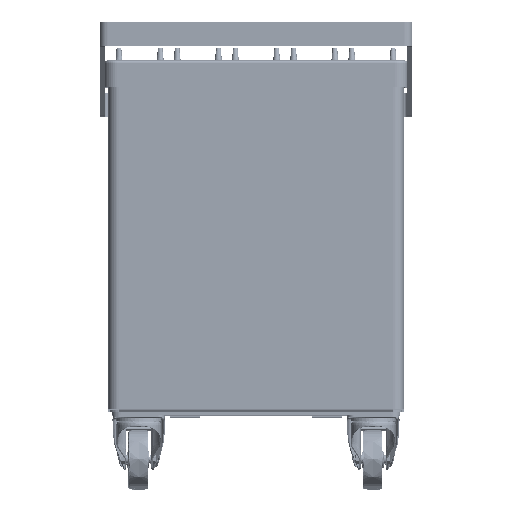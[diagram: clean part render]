
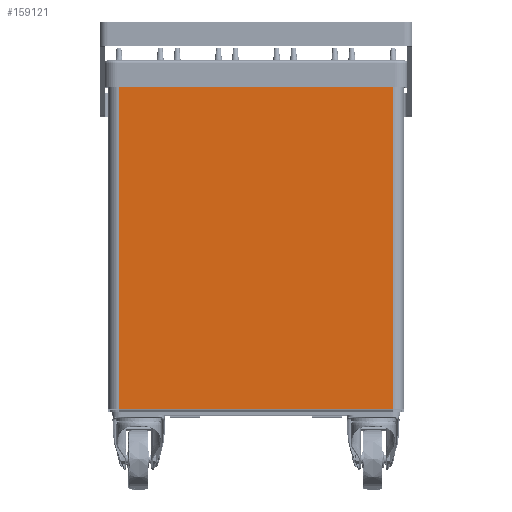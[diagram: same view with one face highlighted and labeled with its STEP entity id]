
A CAD part, top view. The second image highlights one B-rep face of the part: STEP entity #159121.
In plain terms, the highlighted planar face has unit normal (0, 0, 1).
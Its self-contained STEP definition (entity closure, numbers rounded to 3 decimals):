
#4449 = EDGE_CURVE ( 'NONE', #90155, #77275, #71832, .T. ) ;
#5482 = ORIENTED_EDGE ( 'NONE', *, *, #169752, .T. ) ;
#6423 = CARTESIAN_POINT ( 'NONE',  ( 288.5, 858., 534.85 ) ) ;
#10715 = DIRECTION ( 'NONE',  ( 1., 0., 0. ) ) ;
#13263 = CARTESIAN_POINT ( 'NONE',  ( -288.5, 168.5, 534.85 ) ) ;
#16922 = PLANE ( 'NONE',  #158850 ) ;
#18343 = EDGE_CURVE ( 'NONE', #77275, #42367, #160286, .T. ) ;
#18539 = VERTEX_POINT ( 'NONE', #133530 ) ;
#20076 = CARTESIAN_POINT ( 'NONE',  ( 0., 510.5, 534.85 ) ) ;
#20695 = DIRECTION ( 'NONE',  ( 0., 0., -1. ) ) ;
#24256 = DIRECTION ( 'NONE',  ( 0., -1., 0. ) ) ;
#29376 = EDGE_LOOP ( 'NONE', ( #5482, #167507, #50466, #138566 ) ) ;
#42367 = VERTEX_POINT ( 'NONE', #114868 ) ;
#50466 = ORIENTED_EDGE ( 'NONE', *, *, #18343, .T. ) ;
#55718 = LINE ( 'NONE', #65795, #186401 ) ;
#56407 = CARTESIAN_POINT ( 'NONE',  ( -288.5, 850.5, 534.85 ) ) ;
#58695 = VECTOR ( 'NONE', #166599, 1000. ) ;
#65795 = CARTESIAN_POINT ( 'NONE',  ( 288.5, 850.5, 534.85 ) ) ;
#71832 = LINE ( 'NONE', #127386, #94712 ) ;
#77275 = VERTEX_POINT ( 'NONE', #13263 ) ;
#78285 = DIRECTION ( 'NONE',  ( -1., 0., 0. ) ) ;
#90155 = VERTEX_POINT ( 'NONE', #56407 ) ;
#94319 = EDGE_CURVE ( 'NONE', #42367, #18539, #184999, .T. ) ;
#94712 = VECTOR ( 'NONE', #24256, 1000. ) ;
#114868 = CARTESIAN_POINT ( 'NONE',  ( 288.5, 168.5, 534.85 ) ) ;
#126697 = DIRECTION ( 'NONE',  ( -1., 0., 0. ) ) ;
#127386 = CARTESIAN_POINT ( 'NONE',  ( -288.5, 858., 534.85 ) ) ;
#133530 = CARTESIAN_POINT ( 'NONE',  ( 288.5, 850.5, 534.85 ) ) ;
#138566 = ORIENTED_EDGE ( 'NONE', *, *, #94319, .T. ) ;
#144282 = VECTOR ( 'NONE', #10715, 1000. ) ;
#145141 = CARTESIAN_POINT ( 'NONE',  ( -288.5, 168.5, 534.85 ) ) ;
#158850 = AXIS2_PLACEMENT_3D ( 'NONE', #20076, #20695, #78285 ) ;
#159121 = ADVANCED_FACE ( 'NONE', ( #172075 ), #16922, .F. ) ;
#160286 = LINE ( 'NONE', #145141, #144282 ) ;
#166599 = DIRECTION ( 'NONE',  ( 0., 1., 0. ) ) ;
#167507 = ORIENTED_EDGE ( 'NONE', *, *, #4449, .T. ) ;
#169752 = EDGE_CURVE ( 'NONE', #18539, #90155, #55718, .T. ) ;
#172075 = FACE_OUTER_BOUND ( 'NONE', #29376, .T. ) ;
#184999 = LINE ( 'NONE', #6423, #58695 ) ;
#186401 = VECTOR ( 'NONE', #126697, 1000. ) ;
